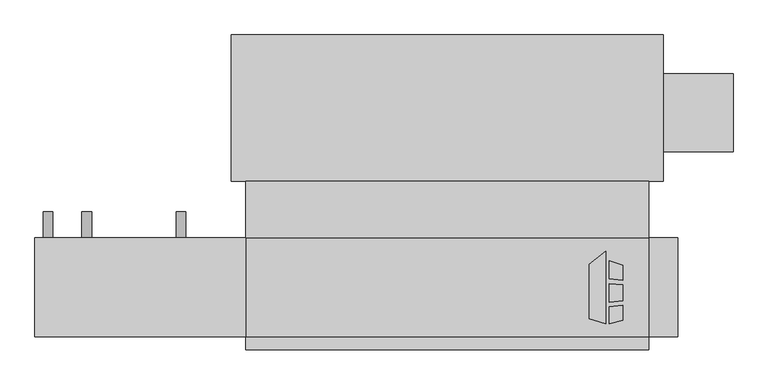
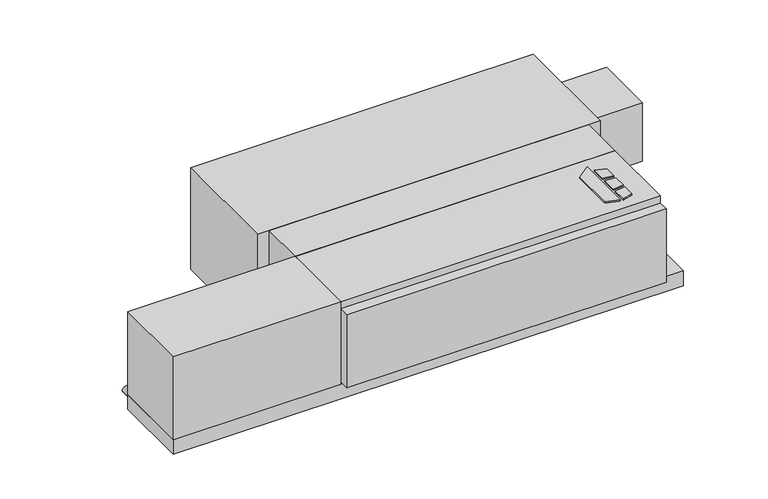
"""IFC4 building model written with IfcOpenShell, lengths in millimetres: proxy geometry, Concealed_Horizontal_Fan_Coil_Unit_With_Plenum_-_CPF_-_IEC_-_4-Pipe_LH : Size 06 - 115v/60Hz/1Ph - 4/1 Coil."""

from ifc_helpers import new_model, si_unit, point, frame, frame_2d, origin, origin_with_axes, place, context, project, spatial, polyline, circle_curve, trimmed, segment, composite_curve, outline, extrude, source, transform, mapped, element, save


def mechanical_equipment_a6213f75(model_context):
    return source(origin(), model_context, "Body", "SweptSolid", [
        extrude(outline(polyline([(429.9019761, -193.0453476), (462.4602728, -167.6080184), (462.4602728, -309.5625), (429.9019761, -299.3429201), (429.9019761, -193.0453476)])), origin_with_axes(), (0.0, 0.0, 1.0), 3.175),
        extrude(outline(polyline([(469.2186058, -220.917352), (469.2186058, -186.4374379), (495.3, -194.6240115), (495.3, -224.1197446), (469.2186058, -220.917352)])), origin_with_axes(), (0.0, 0.0, 1.0), 3.175),
        extrude(outline(polyline([(495.3, -302.5740115), (469.2186058, -309.5625), (469.2186058, -276.3411996), (495.3, -272.7993564), (495.3, -302.5740115)])), origin_with_axes(), (0.0, 0.0, 1.0), 3.175),
        extrude(outline(polyline([(495.3, -233.2013277), (495.3, -264.451483), (469.2186058, -267.192748), (469.2186058, -231.3350378), (495.3, -233.2013277)])), origin_with_axes(), (0.0, 0.0, 1.0), 3.175),
        extrude(outline(polyline([(-241.3, -30.1625), (546.1, -30.1625), (546.1, -141.2875), (-241.3, -141.2875), (-241.3, -30.1625)])), frame((0.0, 0.0, -215.9), z_axis=(0.0, 0.0, 1.0), x_axis=(1.0, 0.0, 0.0)), (0.0, 0.0, 1.0), 215.9),
        extrude(outline(polyline([(-654.05, -334.9625), (-654.05, -141.2875), (-241.3, -141.2875), (-241.3, -334.9625), (-654.05, -334.9625)])), frame((0.0, 0.0, -215.9), z_axis=(0.0, 0.0, 1.0), x_axis=(1.0, 0.0, 0.0)), (0.0, 0.0, 1.0), 215.9),
        extrude(outline(polyline([(603.25, -141.2875), (603.25, -334.9625), (-654.05, -334.9625), (-654.05, -141.2875), (603.25, -141.2875)])), frame((0.0, 0.0, -254.0), z_axis=(0.0, 0.0, 1.0), x_axis=(1.0, 0.0, 0.0)), (0.0, 0.0, 1.0), 38.1),
        extrude(outline(composite_curve([segment(trimmed(circle_curve(frame_2d((-158.75, -552.45)), 9.525), [point((-158.75, -542.925))], [point((-158.75, -561.975))], False, "CARTESIAN"), True, "CONTINUOUS"), segment(trimmed(circle_curve(frame_2d((-158.75, -552.45)), 9.525), [point((-158.75, -561.975))], [point((-158.75, -542.925))], False, "CARTESIAN"), True, "CONTINUOUS")], self_intersect=False)), frame((0.0, -141.2875, 0.0), z_axis=(0.0, 1.0, 0.0), x_axis=(0.0, 0.0, 1.0)), (0.0, 0.0, 1.0), 50.8),
        extrude(outline(composite_curve([segment(trimmed(circle_curve(frame_2d((-69.85, -552.45)), 9.525), [point((-69.85, -542.925))], [point((-69.85, -561.975))], False, "CARTESIAN"), True, "CONTINUOUS"), segment(trimmed(circle_curve(frame_2d((-69.85, -552.45)), 9.525), [point((-69.85, -561.975))], [point((-69.85, -542.925))], False, "CARTESIAN"), True, "CONTINUOUS")], self_intersect=False)), frame((0.0, -141.2875, 0.0), z_axis=(0.0, 1.0, 0.0), x_axis=(0.0, 0.0, 1.0)), (0.0, 0.0, 1.0), 50.8),
        extrude(outline(composite_curve([segment(trimmed(circle_curve(frame_2d((-69.85, -368.3)), 9.525), [point((-69.85, -358.775))], [point((-69.85, -377.825))], False, "CARTESIAN"), True, "CONTINUOUS"), segment(trimmed(circle_curve(frame_2d((-69.85, -368.3)), 9.525), [point((-69.85, -377.825))], [point((-69.85, -358.775))], False, "CARTESIAN"), True, "CONTINUOUS")], self_intersect=False)), frame((0.0, -141.2875, 0.0), z_axis=(0.0, 1.0, 0.0), x_axis=(0.0, 0.0, 1.0)), (0.0, 0.0, 1.0), 50.8),
        extrude(outline(composite_curve([segment(trimmed(circle_curve(frame_2d((-158.75, -368.3)), 9.525), [point((-158.75, -358.775))], [point((-158.75, -377.825))], False, "CARTESIAN"), True, "CONTINUOUS"), segment(trimmed(circle_curve(frame_2d((-158.75, -368.3)), 9.525), [point((-158.75, -377.825))], [point((-158.75, -358.775))], False, "CARTESIAN"), True, "CONTINUOUS")], self_intersect=False)), frame((0.0, -141.2875, 0.0), z_axis=(0.0, 1.0, 0.0), x_axis=(0.0, 0.0, 1.0)), (0.0, 0.0, 1.0), 50.8),
        extrude(outline(composite_curve([segment(trimmed(circle_curve(frame_2d((-241.3, -628.65)), 9.525), [point((-241.3, -638.175))], [point((-241.3, -619.125))], False, "CARTESIAN"), True, "CONTINUOUS"), segment(trimmed(circle_curve(frame_2d((-241.3, -628.65)), 9.525), [point((-241.3, -619.125))], [point((-241.3, -638.175))], False, "CARTESIAN"), True, "CONTINUOUS")], self_intersect=False)), frame((0.0, -141.2875, 0.0), z_axis=(0.0, 1.0, 0.0), x_axis=(0.0, 0.0, 1.0)), (0.0, 0.0, 1.0), 50.8),
        extrude(outline(polyline([(546.1, -334.9625), (546.1, -360.3625), (-241.3, -360.3625), (-241.3, -334.9625), (546.1, -334.9625)])), frame((0.0, 0.0, -209.55), z_axis=(0.0, 0.0, 1.0), x_axis=(1.0, 0.0, 0.0)), (0.0, 0.0, 1.0), 190.5),
        extrude(outline(polyline([(546.1, -334.9625), (-241.3, -334.9625), (-241.3, -141.2875), (546.1, -141.2875), (546.1, -334.9625)])), frame((0.0, 0.0, -215.9), z_axis=(0.0, 0.0, 1.0), x_axis=(1.0, 0.0, 0.0)), (0.0, 0.0, 1.0), 215.9),
        extrude(outline(polyline([(574.675, 26.9875), (574.675, 179.3875), (711.2, 179.3875), (711.2, 26.9875), (574.675, 26.9875)])), frame((0.0, 0.0, -187.325), z_axis=(0.0, 0.0, 1.0), x_axis=(1.0, 0.0, 0.0)), (0.0, 0.0, 1.0), 152.4),
        extrude(outline(polyline([(-269.875, 255.5875), (574.675, 255.5875), (574.675, -30.1625), (-269.875, -30.1625), (-269.875, 255.5875)])), frame((0.0, 0.0, -263.525), z_axis=(0.0, 0.0, 1.0), x_axis=(1.0, 0.0, 0.0)), (0.0, 0.0, 1.0), 263.525),
    ])


if __name__ == "__main__":
    model = new_model("IFC4")
    model_context = context("Model", 3, world=origin())
    ifc_project = project(units=[si_unit("LENGTHUNIT", "METRE", prefix="MILLI")], contexts=[model_context])
    site = spatial("IfcSite", under=ifc_project)
    building = spatial("IfcBuilding", under=site)
    placement = place(None, origin())
    mechanical_equipment_shape = mechanical_equipment_a6213f75(model_context)
    element("IfcBuildingElementProxy", 1, Name="Concealed_Horizontal_Fan_Coil_Unit_With_Plenum_-_CPF_-_IEC_-_4-Pipe_LH : Size 06 - 115v/60Hz/1Ph - 4/1 Coil", ObjectType="Concealed_Horizontal_Fan_Coil_Unit_With_Plenum_-_CPF_-_IEC_-_4-Pipe_LH : Size 06 - 115v/60Hz/1Ph - 4/1 Coil", at=placement, inside=building, context=model_context, shape_type="MappedRepresentation", body=[
        mapped(mechanical_equipment_shape, transform((0.0, 0.0, 0.0), x_axis=(1.0, 0.0, 0.0), y_axis=(0.0, 1.0, 0.0), z_axis=(0.0, 0.0, 1.0))),
    ])
    save(model, "model.ifc")
